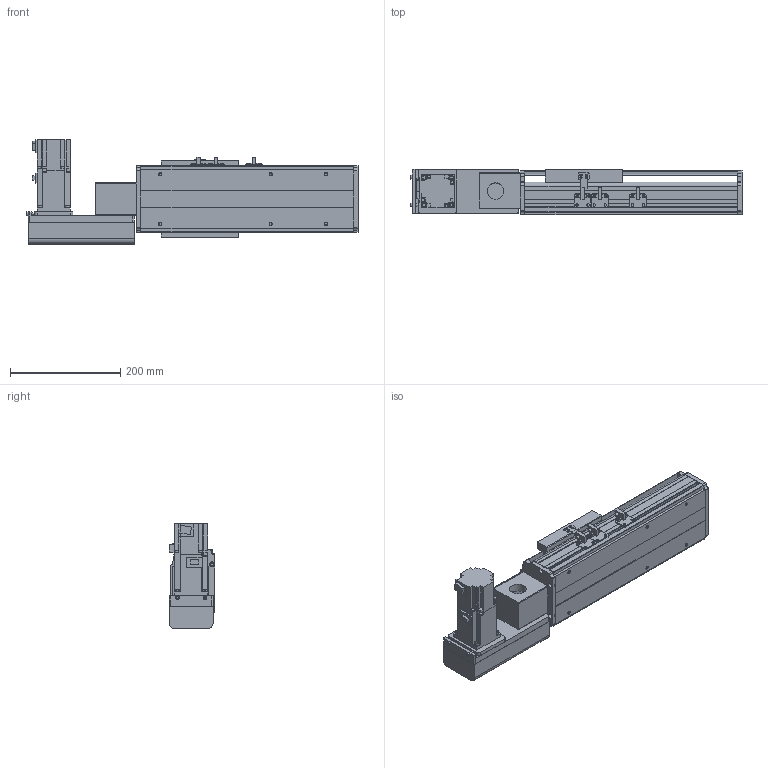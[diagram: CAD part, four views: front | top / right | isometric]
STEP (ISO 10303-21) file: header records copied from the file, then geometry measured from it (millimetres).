
FILE_DESCRIPTION( ( 'STEP AP214' ), '1' );
FILE_NAME( 'x:/temp/worker_26/temp/exporttempdir_3776_52_T6GVd/format_0/PBS120-P40-S100-L-T40-C1-N(0).stp', '2022-06-05T00:23:50', ( 'License CC BY-ND 4.0' ), ( 'CADENAS' ), ' ', 'PARTsolutions', ' ' );
FILE_SCHEMA( ( 'AUTOMOTIVE_DESIGN { 1 0 10303 214 1 1 1 1 }' ) );
Length unit declared in the file: millimetre
Products named in the file (7): PBS120-P40-S100-L-T40-C1-N(0); _PBS120-S100()_body; _PBS120T-L_motors; _T40-p1; _PBS120_sliser; _PBS120_plant; _PBS120_sensor
Assembly tree (8 placements, depth 2):
  PBS120-P40-S100-L-T40-C1-N(0)
    _PBS120-S100()_body
    _PBS120T-L_motors
    _T40-p1
    _PBS120_sliser
    _PBS120_plant
    _PBS120_sensor  x3
Bounding box: 601 x 83 x 189.7 mm (x, y, z)
Volume: 3031734 mm3; surface area: 517473.7 mm2
Topology: 8 solids, 8 shells, 798 faces, 2106 edges, 1357 vertices
Faces by surface type: plane 539, cylinder 219, cone 38, torus 2
Full cylindrical faces by diameter (mm): 2.459 x6, 3.242 x4, 4 x2, 4.134 x4, 4.5 x10, 4.917 x10, 5.5 x11, 6 x2, 6.6 x1, 7 x2, 8.5 x4, 9 x4, 12 x1, 14 x1, 30 x2, 40 x1, 50 x2
Entity records: 26484 total; most frequent: DIRECTION 3620, CARTESIAN_POINT 3587, ORIENTED_EDGE 3442, EDGE_CURVE 1721, LINE 1228, VECTOR 1228, AXIS2_PLACEMENT_3D 1196, VERTEX_POINT 1163
